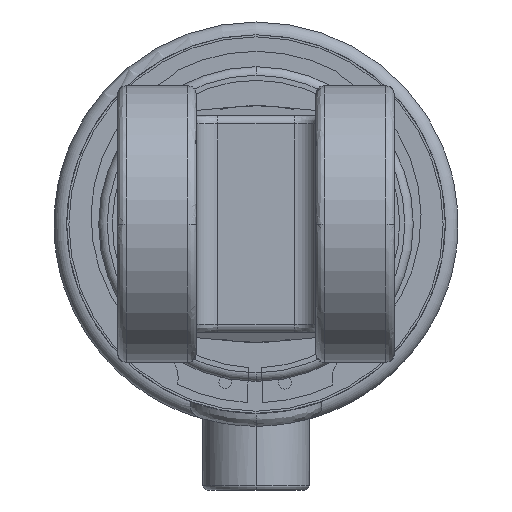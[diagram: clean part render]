
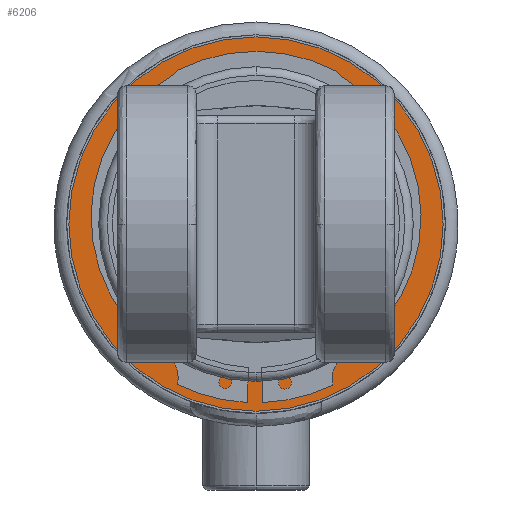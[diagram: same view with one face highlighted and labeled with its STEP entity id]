
A CAD part, left-side view. The second image highlights one B-rep face of the part: STEP entity #6206.
In plain terms, the highlighted planar face has unit normal (-1, 0, 0).
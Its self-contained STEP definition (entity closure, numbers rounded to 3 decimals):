
#811 = EDGE_CURVE ( 'NONE', #5103, #1137, #7054, .T. ) ;
#1137 = VERTEX_POINT ( 'NONE', #8294 ) ;
#1580 = CARTESIAN_POINT ( 'NONE',  ( -418.005, 0., 0. ) ) ;
#1802 = ORIENTED_EDGE ( 'NONE', *, *, #6251, .T. ) ;
#2479 = DIRECTION ( 'NONE',  ( 0., 0., 1. ) ) ;
#2484 = CARTESIAN_POINT ( 'NONE',  ( -418.005, 0., -36.95 ) ) ;
#2650 = EDGE_LOOP ( 'NONE', ( #1802, #5074 ) ) ;
#2924 = ORIENTED_EDGE ( 'NONE', *, *, #4534, .F. ) ;
#2977 = DIRECTION ( 'NONE',  ( -1., 0., 0. ) ) ;
#3471 = DIRECTION ( 'NONE',  ( -1., 0., 0. ) ) ;
#3610 = EDGE_CURVE ( 'NONE', #3809, #7528, #5452, .T. ) ;
#3766 = CARTESIAN_POINT ( 'NONE',  ( -418.005, 0., -43.95 ) ) ;
#3809 = VERTEX_POINT ( 'NONE', #4399 ) ;
#3847 = DIRECTION ( 'NONE',  ( -1., 0., 0. ) ) ;
#4215 = CARTESIAN_POINT ( 'NONE',  ( -418.005, 0., 0. ) ) ;
#4399 = CARTESIAN_POINT ( 'NONE',  ( -418.005, 0., -43.95 ) ) ;
#4425 = CIRCLE ( 'NONE', #6264, 43.95 ) ;
#4534 = EDGE_CURVE ( 'NONE', #1137, #5103, #6024, .T. ) ;
#4660 = CARTESIAN_POINT ( 'NONE',  ( -418.005, 0., 43.95 ) ) ;
#5074 = ORIENTED_EDGE ( 'NONE', *, *, #3610, .T. ) ;
#5103 = VERTEX_POINT ( 'NONE', #2484 ) ;
#5134 = DIRECTION ( 'NONE',  ( 0., 0., 1. ) ) ;
#5452 = CIRCLE ( 'NONE', #10395, 43.95 ) ;
#6024 = CIRCLE ( 'NONE', #8033, 36.95 ) ;
#6206 = ADVANCED_FACE ( 'NONE', ( #9276, #7425 ), #9300, .T. ) ;
#6251 = EDGE_CURVE ( 'NONE', #7528, #3809, #4425, .T. ) ;
#6264 = AXIS2_PLACEMENT_3D ( 'NONE', #8426, #2977, #9337 ) ;
#6897 = AXIS2_PLACEMENT_3D ( 'NONE', #3766, #3847, #10225 ) ;
#7054 = CIRCLE ( 'NONE', #9523, 36.95 ) ;
#7425 = FACE_BOUND ( 'NONE', #8217, .T. ) ;
#7528 = VERTEX_POINT ( 'NONE', #4660 ) ;
#7925 = DIRECTION ( 'NONE',  ( -1., 0., 0. ) ) ;
#8033 = AXIS2_PLACEMENT_3D ( 'NONE', #8930, #3471, #9851 ) ;
#8217 = EDGE_LOOP ( 'NONE', ( #2924, #9203 ) ) ;
#8294 = CARTESIAN_POINT ( 'NONE',  ( -418.005, 0., 36.95 ) ) ;
#8426 = CARTESIAN_POINT ( 'NONE',  ( -418.005, 0., 0. ) ) ;
#8930 = CARTESIAN_POINT ( 'NONE',  ( -418.005, 0., 0. ) ) ;
#9203 = ORIENTED_EDGE ( 'NONE', *, *, #811, .F. ) ;
#9276 = FACE_OUTER_BOUND ( 'NONE', #2650, .T. ) ;
#9300 = PLANE ( 'NONE',  #6897 ) ;
#9337 = DIRECTION ( 'NONE',  ( 0., 0., 1. ) ) ;
#9523 = AXIS2_PLACEMENT_3D ( 'NONE', #1580, #7925, #2479 ) ;
#9851 = DIRECTION ( 'NONE',  ( 0., 0., 1. ) ) ;
#10225 = DIRECTION ( 'NONE',  ( 0., 0., 1. ) ) ;
#10395 = AXIS2_PLACEMENT_3D ( 'NONE', #4215, #10599, #5134 ) ;
#10599 = DIRECTION ( 'NONE',  ( -1., 0., 0. ) ) ;
